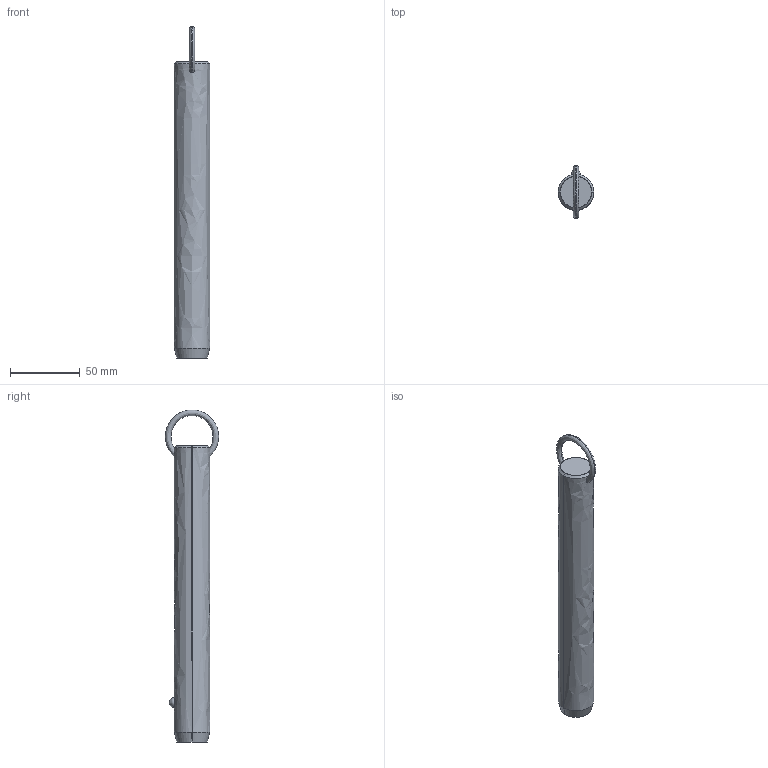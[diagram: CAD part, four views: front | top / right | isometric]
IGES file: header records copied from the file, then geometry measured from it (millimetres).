
Start section: SolidWorks IGES file using analytic representation for surfaces
Global section: file name: C:\Users\liam_\OneDrive\Documents\WORK\Work for WixRoyd\Job Files\J-00019 - Matt Davis CAD Checking\04. CAD Drawings\automotion20190605\P1250.2_v2\P1250.2_v2_20190729_IGES\P1250.100-660.igs; native system: SolidWorks 2017; preprocessor: SolidWorks 2017; author: liam_; date: 190730.174747; units: millimetre
Bounding box: 25.4 x 38.1 x 237.4 mm (x, y, z)
Surface area: 18690.2 mm2 (no closed solid volume)
Topology: 0 solids, 0 shells, 12 faces, 298 edges, 296 vertices
Faces by surface type: revolution 8, bspline 4
